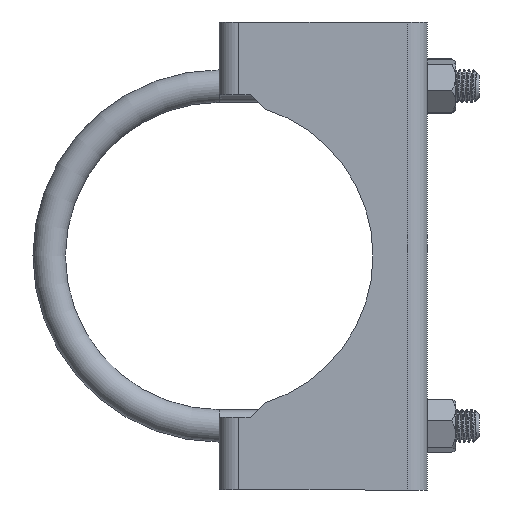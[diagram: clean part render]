
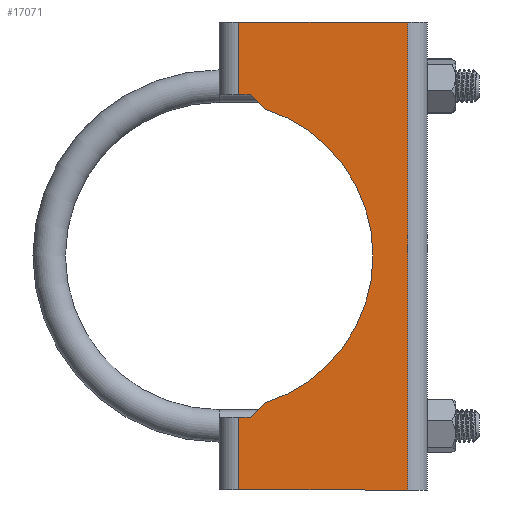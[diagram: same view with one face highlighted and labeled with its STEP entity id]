
A CAD part, front view. The second image highlights one B-rep face of the part: STEP entity #17071.
In plain terms, the highlighted planar face has unit normal (0, -1, 0).
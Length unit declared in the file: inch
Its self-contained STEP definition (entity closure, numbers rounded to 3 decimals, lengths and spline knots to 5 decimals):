
#226 = CIRCLE ( 'NONE', #19859, 2.96 ) ;
#443 = CARTESIAN_POINT ( 'NONE',  ( 0., -16., 0. ) ) ;
#444 = DIRECTION ( 'NONE',  ( 0., -1., 0. ) ) ;
#445 = DIRECTION ( 'NONE',  ( 1., 0., 0. ) ) ;
#1088 = ORIENTED_EDGE ( 'NONE', *, *, #17246, .T. ) ;
#1089 = ORIENTED_EDGE ( 'NONE', *, *, #17247, .T. ) ;
#1090 = ORIENTED_EDGE ( 'NONE', *, *, #17248, .F. ) ;
#1091 = ORIENTED_EDGE ( 'NONE', *, *, #17244, .T. ) ;
#1092 = ORIENTED_EDGE ( 'NONE', *, *, #17240, .F. ) ;
#1093 = ORIENTED_EDGE ( 'NONE', *, *, #22602, .T. ) ;
#1094 = ORIENTED_EDGE ( 'NONE', *, *, #22614, .T. ) ;
#1095 = ORIENTED_EDGE ( 'NONE', *, *, #22580, .T. ) ;
#1096 = ORIENTED_EDGE ( 'NONE', *, *, #1579, .F. ) ;
#1097 = ORIENTED_EDGE ( 'NONE', *, *, #22585, .F. ) ;
#1098 = ORIENTED_EDGE ( 'NONE', *, *, #22587, .T. ) ;
#1311 = EDGE_LOOP ( 'NONE', ( #1088, #1089, #1090, #1091, #1092, #1093, #1094, #1095, #1096, #1097, #1098 ) ) ;
#1579 = EDGE_CURVE ( 'NONE', #20041, #20040, #226, .T. ) ;
#5682 = CARTESIAN_POINT ( 'NONE',  ( 0., -16., 4.5 ) ) ;
#5683 = DIRECTION ( 'NONE',  ( 1., 0., 0. ) ) ;
#5684 = CARTESIAN_POINT ( 'NONE',  ( 3.625, -16., 4.5 ) ) ;
#5689 = DIRECTION ( 'NONE',  ( -1., 0., 0. ) ) ;
#5691 = DIRECTION ( 'NONE',  ( 0., 0., 1. ) ) ;
#5692 = CARTESIAN_POINT ( 'NONE',  ( 0., -16., -3.1 ) ) ;
#5698 = CARTESIAN_POINT ( 'NONE',  ( 0.375, -16., -4.5 ) ) ;
#5699 = DIRECTION ( 'NONE',  ( 0., 0., -1. ) ) ;
#5700 = CARTESIAN_POINT ( 'NONE',  ( 0., -16., -4.5 ) ) ;
#5701 = DIRECTION ( 'NONE',  ( -1., 0., 0. ) ) ;
#10313 = CARTESIAN_POINT ( 'NONE',  ( 0., -16., 0. ) ) ;
#10319 = PLANE ( 'NONE',  #16200 ) ;
#10322 = DIRECTION ( 'NONE',  ( 0., -1., 0. ) ) ;
#10323 = DIRECTION ( 'NONE',  ( 1., 0., 0. ) ) ;
#14619 = FACE_OUTER_BOUND ( 'NONE', #1311, .T. ) ;
#14851 = LINE ( 'NONE', #5684, #14867 ) ;
#14857 = LINE ( 'NONE', #5682, #14860 ) ;
#14860 = VECTOR ( 'NONE', #5683, 39.37008 ) ;
#14867 = VECTOR ( 'NONE', #5691, 39.37008 ) ;
#14868 = LINE ( 'NONE', #5692, #14870 ) ;
#14869 = LINE ( 'NONE', #5698, #14872 ) ;
#14870 = VECTOR ( 'NONE', #5689, 39.37008 ) ;
#14871 = LINE ( 'NONE', #5700, #14874 ) ;
#14872 = VECTOR ( 'NONE', #5699, 39.37008 ) ;
#14874 = VECTOR ( 'NONE', #5701, 39.37008 ) ;
#16200 = AXIS2_PLACEMENT_3D ( 'NONE', #10313, #10322, #10323 ) ;
#17071 = ADVANCED_FACE ( 'NONE', ( #14619 ), #10319, .T. ) ;
#17240 = EDGE_CURVE ( 'NONE', #20004, #19979, #14857, .T. ) ;
#17244 = EDGE_CURVE ( 'NONE', #19976, #19979, #14851, .T. ) ;
#17246 = EDGE_CURVE ( 'NONE', #20018, #19988, #14868, .T. ) ;
#17247 = EDGE_CURVE ( 'NONE', #19988, #19974, #14869, .T. ) ;
#17248 = EDGE_CURVE ( 'NONE', #19976, #19974, #14871, .T. ) ;
#17688 = CARTESIAN_POINT ( 'NONE',  ( 0.375, -16., -4.5 ) ) ;
#17690 = CARTESIAN_POINT ( 'NONE',  ( 3.625, -16., -4.5 ) ) ;
#17693 = CARTESIAN_POINT ( 'NONE',  ( 3.625, -16., 4.5 ) ) ;
#17702 = CARTESIAN_POINT ( 'NONE',  ( 0.375, -16., -3.1 ) ) ;
#17718 = CARTESIAN_POINT ( 'NONE',  ( 0.375, -16., 4.5 ) ) ;
#17719 = CARTESIAN_POINT ( 'NONE',  ( 0.375, -16., 3.1 ) ) ;
#17727 = CARTESIAN_POINT ( 'NONE',  ( 0.87107, -16., -2.82893 ) ) ;
#17730 = CARTESIAN_POINT ( 'NONE',  ( 0.6, -16., 3.1 ) ) ;
#17732 = CARTESIAN_POINT ( 'NONE',  ( 0.6, -16., -3.1 ) ) ;
#17754 = CARTESIAN_POINT ( 'NONE',  ( 0.87107, -16., 2.82893 ) ) ;
#17755 = CARTESIAN_POINT ( 'NONE',  ( 2.96, -16., 0. ) ) ;
#19054 = CARTESIAN_POINT ( 'NONE',  ( 0.6, -16., 3.1 ) ) ;
#19055 = DIRECTION ( 'NONE',  ( 0.707, 0., -0.707 ) ) ;
#19096 = LINE ( 'NONE', #19054, #19099 ) ;
#19099 = VECTOR ( 'NONE', #19055, 39.37008 ) ;
#19100 = CIRCLE ( 'NONE', #20272, 2.96 ) ;
#19108 = LINE ( 'NONE', #19281, #19111 ) ;
#19111 = VECTOR ( 'NONE', #19282, 39.37008 ) ;
#19124 = LINE ( 'NONE', #19315, #19136 ) ;
#19136 = VECTOR ( 'NONE', #19310, 39.37008 ) ;
#19154 = LINE ( 'NONE', #19343, #19157 ) ;
#19157 = VECTOR ( 'NONE', #19344, 39.37008 ) ;
#19278 = CARTESIAN_POINT ( 'NONE',  ( 0., -16., 0. ) ) ;
#19279 = DIRECTION ( 'NONE',  ( 0., -1., 0. ) ) ;
#19280 = DIRECTION ( 'NONE',  ( 1., 0., 0. ) ) ;
#19281 = CARTESIAN_POINT ( 'NONE',  ( 0.6, -16., -3.1 ) ) ;
#19282 = DIRECTION ( 'NONE',  ( -0.707, 0., -0.707 ) ) ;
#19310 = DIRECTION ( 'NONE',  ( 0., 0., -1. ) ) ;
#19315 = CARTESIAN_POINT ( 'NONE',  ( 0.375, -16., 2.96 ) ) ;
#19343 = CARTESIAN_POINT ( 'NONE',  ( 0., -16., 3.1 ) ) ;
#19344 = DIRECTION ( 'NONE',  ( 1., 0., 0. ) ) ;
#19859 = AXIS2_PLACEMENT_3D ( 'NONE', #443, #444, #445 ) ;
#19974 = VERTEX_POINT ( 'NONE', #17688 ) ;
#19976 = VERTEX_POINT ( 'NONE', #17690 ) ;
#19979 = VERTEX_POINT ( 'NONE', #17693 ) ;
#19988 = VERTEX_POINT ( 'NONE', #17702 ) ;
#20004 = VERTEX_POINT ( 'NONE', #17718 ) ;
#20005 = VERTEX_POINT ( 'NONE', #17719 ) ;
#20013 = VERTEX_POINT ( 'NONE', #17727 ) ;
#20016 = VERTEX_POINT ( 'NONE', #17730 ) ;
#20018 = VERTEX_POINT ( 'NONE', #17732 ) ;
#20040 = VERTEX_POINT ( 'NONE', #17754 ) ;
#20041 = VERTEX_POINT ( 'NONE', #17755 ) ;
#20272 = AXIS2_PLACEMENT_3D ( 'NONE', #19278, #19279, #19280 ) ;
#22580 = EDGE_CURVE ( 'NONE', #20016, #20040, #19096, .T. ) ;
#22585 = EDGE_CURVE ( 'NONE', #20013, #20041, #19100, .T. ) ;
#22587 = EDGE_CURVE ( 'NONE', #20013, #20018, #19108, .T. ) ;
#22602 = EDGE_CURVE ( 'NONE', #20004, #20005, #19124, .T. ) ;
#22614 = EDGE_CURVE ( 'NONE', #20005, #20016, #19154, .T. ) ;
